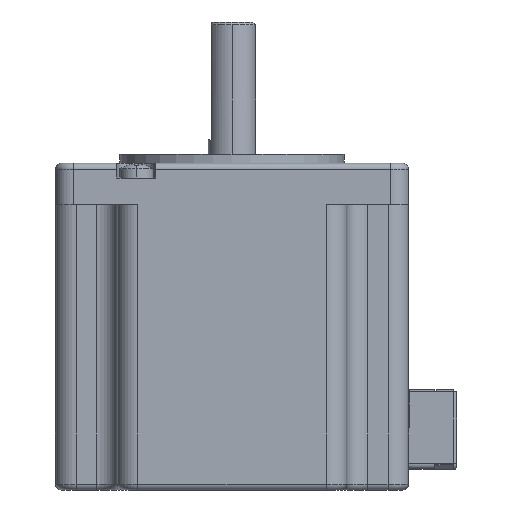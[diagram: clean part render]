
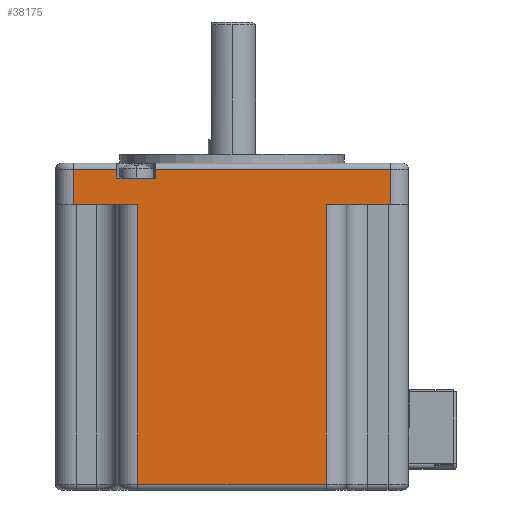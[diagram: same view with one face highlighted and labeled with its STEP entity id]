
A CAD part, left-side view. The second image highlights one B-rep face of the part: STEP entity #38175.
In plain terms, the highlighted planar face has unit normal (-1, 0, 0).
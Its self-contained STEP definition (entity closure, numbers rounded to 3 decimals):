
#3115=DIRECTION('',(0.,0.,1.));
#3116=VECTOR('',#3115,47.5);
#3117=CARTESIAN_POINT('',(-30.,-16.,1.));
#3118=LINE('',#3117,#3116);
#3133=DIRECTION('',(0.,0.,1.));
#3134=VECTOR('',#3133,6.);
#3135=CARTESIAN_POINT('',(-30.,27.,48.5));
#3136=LINE('',#3135,#3134);
#3137=DIRECTION('',(0.,-1.,0.));
#3138=VECTOR('',#3137,7.45);
#3139=CARTESIAN_POINT('',(-30.,27.,54.5));
#3140=LINE('',#3139,#3138);
#3141=DIRECTION('',(0.,0.,-1.));
#3142=VECTOR('',#3141,1.5);
#3143=CARTESIAN_POINT('',(-30.,19.55,54.5));
#3144=LINE('',#3143,#3142);
#3145=DIRECTION('',(0.,1.,0.));
#3146=VECTOR('',#3145,6.6);
#3147=CARTESIAN_POINT('',(-30.,12.95,53.));
#3148=LINE('',#3147,#3146);
#3149=DIRECTION('',(0.,0.,-1.));
#3150=VECTOR('',#3149,1.5);
#3151=CARTESIAN_POINT('',(-30.,12.95,54.5));
#3152=LINE('',#3151,#3150);
#3153=DIRECTION('',(0.,-1.,0.));
#3154=VECTOR('',#3153,39.95);
#3155=CARTESIAN_POINT('',(-30.,12.95,54.5));
#3156=LINE('',#3155,#3154);
#3157=DIRECTION('',(0.,0.,1.));
#3158=VECTOR('',#3157,6.);
#3159=CARTESIAN_POINT('',(-30.,-27.,48.5));
#3160=LINE('',#3159,#3158);
#3161=DIRECTION('',(0.,1.,0.));
#3162=VECTOR('',#3161,32.);
#3163=CARTESIAN_POINT('',(-30.,-16.,1.));
#3164=LINE('',#3163,#3162);
#3174=DIRECTION('',(0.,0.,-1.));
#3175=VECTOR('',#3174,47.5);
#3176=CARTESIAN_POINT('',(-30.,16.,48.5));
#3177=LINE('',#3176,#3175);
#4085=DIRECTION('',(0.,-1.,0.));
#4086=VECTOR('',#4085,11.);
#4087=CARTESIAN_POINT('',(-30.,-16.,48.5));
#4088=LINE('',#4087,#4086);
#4517=DIRECTION('',(0.,-1.,0.));
#4518=VECTOR('',#4517,11.);
#4519=CARTESIAN_POINT('',(-30.,27.,48.5));
#4520=LINE('',#4519,#4518);
#26524=CARTESIAN_POINT('',(-30.,-16.,1.));
#26525=VERTEX_POINT('',#26524);
#26528=CARTESIAN_POINT('',(-30.,16.,1.));
#26529=VERTEX_POINT('',#26528);
#32351=CARTESIAN_POINT('',(-30.,27.,48.5));
#32353=VERTEX_POINT('',#32351);
#32354=CARTESIAN_POINT('',(-30.,-27.,48.5));
#32356=VERTEX_POINT('',#32354);
#32388=CARTESIAN_POINT('',(-30.,16.,48.5));
#32389=VERTEX_POINT('',#32388);
#32390=CARTESIAN_POINT('',(-30.,-16.,48.5));
#32391=VERTEX_POINT('',#32390);
#32478=CARTESIAN_POINT('',(-30.,12.95,53.));
#32479=CARTESIAN_POINT('',(-30.,19.55,53.));
#32480=VERTEX_POINT('',#32478);
#32481=VERTEX_POINT('',#32479);
#32551=CARTESIAN_POINT('',(-30.,19.55,54.5));
#32553=VERTEX_POINT('',#32551);
#32554=CARTESIAN_POINT('',(-30.,27.,54.5));
#32555=VERTEX_POINT('',#32554);
#32576=CARTESIAN_POINT('',(-30.,-27.,54.5));
#32577=VERTEX_POINT('',#32576);
#32578=CARTESIAN_POINT('',(-30.,12.95,54.5));
#32580=VERTEX_POINT('',#32578);
#38145=CARTESIAN_POINT('',(-30.,30.,0.));
#38146=DIRECTION('',(-1.,0.,0.));
#38147=DIRECTION('',(0.,-1.,0.));
#38148=AXIS2_PLACEMENT_3D('',#38145,#38146,#38147);
#38149=PLANE('',#38148);
#38151=ORIENTED_EDGE('',*,*,#38150,.F.);
#38153=ORIENTED_EDGE('',*,*,#38152,.F.);
#38155=ORIENTED_EDGE('',*,*,#38154,.T.);
#38157=ORIENTED_EDGE('',*,*,#38156,.T.);
#38159=ORIENTED_EDGE('',*,*,#38158,.T.);
#38161=ORIENTED_EDGE('',*,*,#38160,.F.);
#38163=ORIENTED_EDGE('',*,*,#38162,.F.);
#38165=ORIENTED_EDGE('',*,*,#38164,.T.);
#38167=ORIENTED_EDGE('',*,*,#38166,.F.);
#38169=ORIENTED_EDGE('',*,*,#38168,.F.);
#38170=ORIENTED_EDGE('',*,*,#38135,.F.);
#38172=ORIENTED_EDGE('',*,*,#38171,.T.);
#38173=EDGE_LOOP('',(#38151,#38153,#38155,#38157,#38159,#38161,#38163,#38165,
#38167,#38169,#38170,#38172));
#38174=FACE_OUTER_BOUND('',#38173,.F.);
#38175=ADVANCED_FACE('',(#38174),#38149,.T.);
#38135=EDGE_CURVE('',#26525,#32391,#3118,.T.);
#38150=EDGE_CURVE('',#32389,#26529,#3177,.T.);
#38152=EDGE_CURVE('',#32353,#32389,#4520,.T.);
#38154=EDGE_CURVE('',#32353,#32555,#3136,.T.);
#38156=EDGE_CURVE('',#32555,#32553,#3140,.T.);
#38158=EDGE_CURVE('',#32553,#32481,#3144,.T.);
#38160=EDGE_CURVE('',#32480,#32481,#3148,.T.);
#38162=EDGE_CURVE('',#32580,#32480,#3152,.T.);
#38164=EDGE_CURVE('',#32580,#32577,#3156,.T.);
#38166=EDGE_CURVE('',#32356,#32577,#3160,.T.);
#38168=EDGE_CURVE('',#32391,#32356,#4088,.T.);
#38171=EDGE_CURVE('',#26525,#26529,#3164,.T.);
